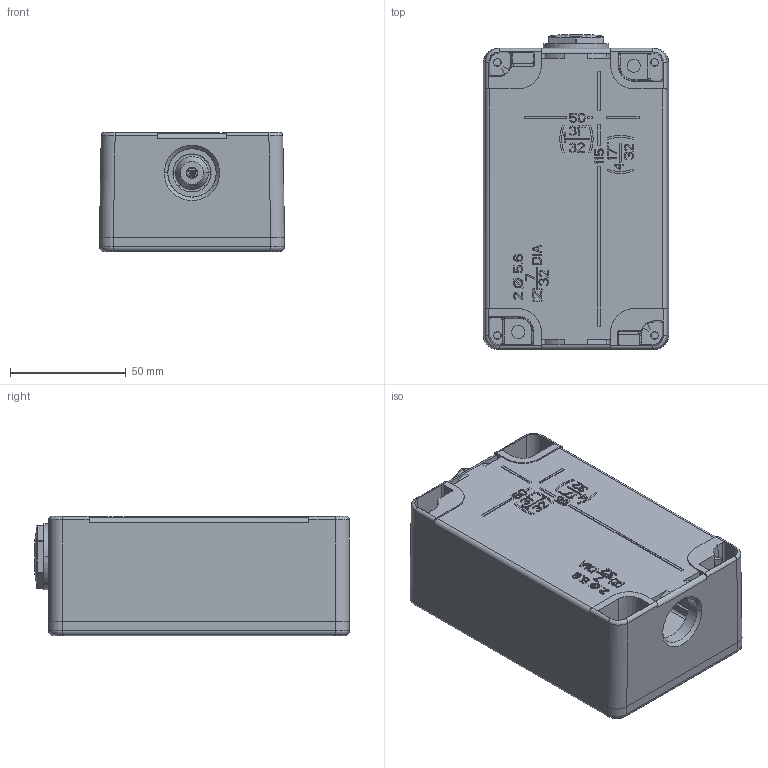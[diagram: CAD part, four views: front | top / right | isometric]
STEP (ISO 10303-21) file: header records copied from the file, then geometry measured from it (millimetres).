
FILE_DESCRIPTION((''),'2;1');
FILE_NAME('XAPM2203_SW0001','2017-03-23T',('SESA46431'),('Schneider-Electric'),'PRO/ENGINEER BY PARAMETRIC TECHNOLOGY CORPORATION, 2015440','PRO/ENGINEER BY PARAMETRIC TECHNOLOGY CORPORATION, 2015440','');
FILE_SCHEMA(('CONFIG_CONTROL_DESIGN'));
Length unit declared in the file: millimetre
Products named in the file (1): XAPM2203_SW0001
Bounding box: 80 x 136 x 51.5 mm (x, y, z)
Surface area: 90984.5 mm2 (no closed solid volume)
Topology: 0 solids, 99 shells, 901 faces, 5018 edges, 4173 vertices
Faces by surface type: plane 394, cylinder 236, torus 114, cone 72, bspline 42, sphere 22, extrusion 21
Entity records: 52579 total; most frequent: CARTESIAN_POINT 15369, DIRECTION 6943, ORIENTED_EDGE 6942, EDGE_CURVE 5003, VERTEX_POINT 4173, VECTOR 3523, LINE 3502, AXIS2_PLACEMENT_3D 1710
